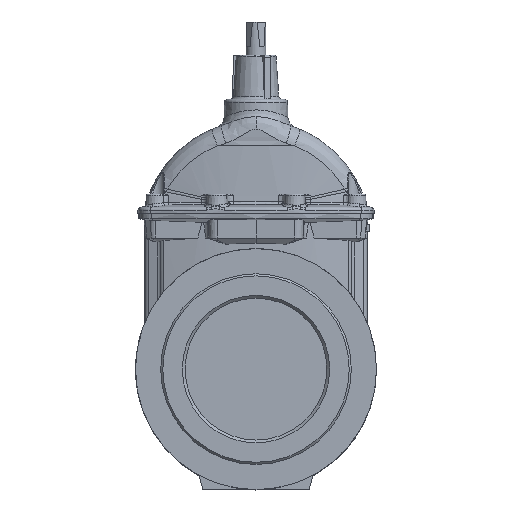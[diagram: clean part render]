
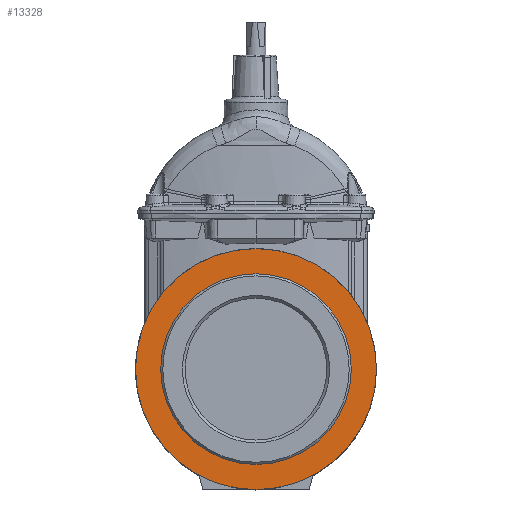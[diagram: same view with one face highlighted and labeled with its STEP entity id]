
A CAD part, top view. The second image highlights one B-rep face of the part: STEP entity #13328.
In plain terms, the highlighted planar face has unit normal (0, 0, 1).
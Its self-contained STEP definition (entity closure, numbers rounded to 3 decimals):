
#3806 = EDGE_CURVE ( 'NONE', #20455, #20455, #6387, .T. ) ;
#4174 = EDGE_CURVE ( 'NONE', #20459, #20459, #11807, .T. ) ;
#4425 = AXIS2_PLACEMENT_3D ( 'NONE', #19816, #19814, #19813 ) ;
#6387 = CIRCLE ( 'NONE', #4425, 134.5 ) ;
#11807 = CIRCLE ( 'NONE', #22171, 170. ) ;
#12789 = EDGE_LOOP ( 'NONE', ( #13695 ) ) ;
#13091 = EDGE_LOOP ( 'NONE', ( #13696 ) ) ;
#13328 = ADVANCED_FACE ( 'NONE', ( #20045, #20048 ), #25005, .T. ) ;
#13695 = ORIENTED_EDGE ( 'NONE', *, *, #3806, .F. ) ;
#13696 = ORIENTED_EDGE ( 'NONE', *, *, #4174, .T. ) ;
#19151 = AXIS2_PLACEMENT_3D ( 'NONE', #24999, #25007, #25008 ) ;
#19319 = DIRECTION ( 'NONE',  ( 1., 0., 0. ) ) ;
#19320 = DIRECTION ( 'NONE',  ( 0., 0., 1. ) ) ;
#19321 = CARTESIAN_POINT ( 'NONE',  ( 0., 0., 143. ) ) ;
#19813 = DIRECTION ( 'NONE',  ( 1., 0., 0. ) ) ;
#19814 = DIRECTION ( 'NONE',  ( 0., 0., 1. ) ) ;
#19816 = CARTESIAN_POINT ( 'NONE',  ( 0., 0., 143. ) ) ;
#20045 = FACE_OUTER_BOUND ( 'NONE', #13091, .T. ) ;
#20048 = FACE_BOUND ( 'NONE', #12789, .T. ) ;
#20455 = VERTEX_POINT ( 'NONE', #28932 ) ;
#20459 = VERTEX_POINT ( 'NONE', #28942 ) ;
#22171 = AXIS2_PLACEMENT_3D ( 'NONE', #19321, #19320, #19319 ) ;
#24999 = CARTESIAN_POINT ( 'NONE',  ( 0., 134.5, 143. ) ) ;
#25005 = PLANE ( 'NONE',  #19151 ) ;
#25007 = DIRECTION ( 'NONE',  ( 0., 0., 1. ) ) ;
#25008 = DIRECTION ( 'NONE',  ( 1., 0., 0. ) ) ;
#28932 = CARTESIAN_POINT ( 'NONE',  ( 134.5, 0., 143. ) ) ;
#28942 = CARTESIAN_POINT ( 'NONE',  ( 170., 0., 143. ) ) ;
